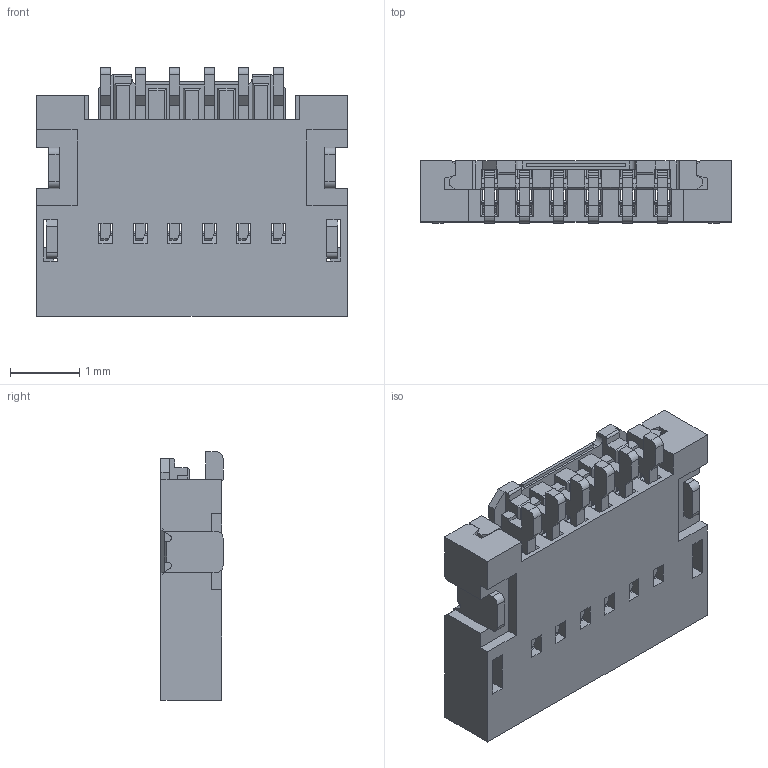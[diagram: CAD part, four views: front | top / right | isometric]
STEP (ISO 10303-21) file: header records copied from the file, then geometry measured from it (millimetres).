
FILE_DESCRIPTION((''),'2;1');
FILE_NAME('59453-062110ECLF_ASM','2008-07-09T',('FujiwarE'),(''),'PRO/ENGINEER BY PARAMETRIC TECHNOLOGY CORPORATION, 2008010','PRO/ENGINEER BY PARAMETRIC TECHNOLOGY CORPORATION, 2008010','');
FILE_SCHEMA(('CONFIG_CONTROL_DESIGN'));
Length unit declared in the file: millimetre
Products named in the file (5): HSG_U6P; CONTACT_U; ACT_U6P; TABP; 59453-062110ECLF_ASM
Assembly tree (10 placements, depth 2):
  59453-062110ECLF_ASM
    HSG_U6P
    CONTACT_U  x6
    ACT_U6P
    TABP  x2
Bounding box: 4.5 x 0.9 x 3.6 mm (x, y, z)
Volume: 8.4 mm3; surface area: 110.2 mm2
Topology: 10 solids, 10 shells, 712 faces, 2050 edges, 1332 vertices
Faces by surface type: plane 616, cylinder 96
Entity records: 15709 total; most frequent: CARTESIAN_POINT 2835, ORIENTED_EDGE 2780, DIRECTION 2460, EDGE_CURVE 1390, VECTOR 1286, LINE 1286, VERTEX_POINT 892, AXIS2_PLACEMENT_3D 587
